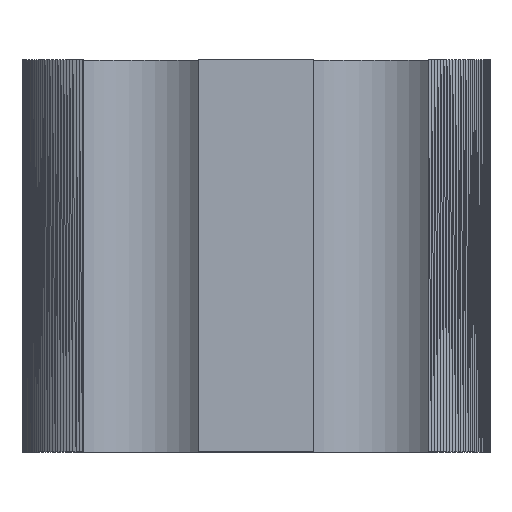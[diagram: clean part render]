
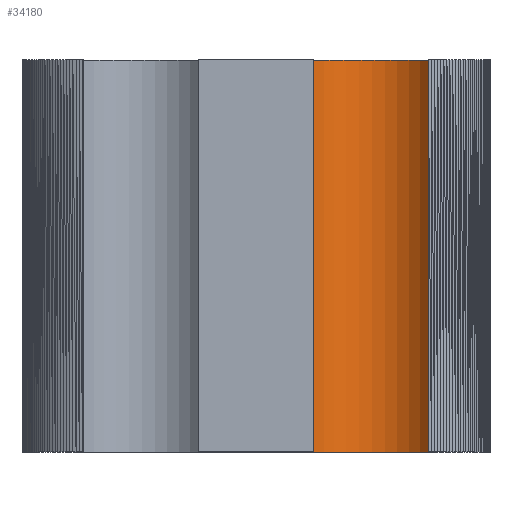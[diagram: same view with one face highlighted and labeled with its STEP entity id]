
A CAD part, top view. The second image highlights one B-rep face of the part: STEP entity #34180.
In plain terms, the highlighted cylindrical face has radius 2.85 mm (diameter 5.7 mm), a partial arc.
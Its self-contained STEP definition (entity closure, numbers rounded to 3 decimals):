
#18980 = PLANE('',#18981);
#18981 = AXIS2_PLACEMENT_3D('',#18982,#18983,#18984);
#18982 = CARTESIAN_POINT('',(-21.978,-15.,-32.23));
#18983 = DIRECTION('',(0.,1.,0.));
#18984 = DIRECTION('',(0.,0.,-1.));
#19073 = PLANE('',#19074);
#19074 = AXIS2_PLACEMENT_3D('',#19075,#19076,#19077);
#19075 = CARTESIAN_POINT('',(-21.978,0.,
    -32.23));
#19076 = DIRECTION('',(0.,-1.,0.));
#19077 = DIRECTION('',(-0.,0.,1.));
#28210 = VERTEX_POINT('',#28211);
#28211 = CARTESIAN_POINT('',(-19.749,0.,
    -29.007));
#28225 = PLANE('',#28226);
#28226 = AXIS2_PLACEMENT_3D('',#28227,#28228,#28229);
#28227 = CARTESIAN_POINT('',(-21.96,-7.5,-29.007));
#28228 = DIRECTION('',(0.,0.,1.));
#28229 = DIRECTION('',(0.,1.,0.));
#28237 = EDGE_CURVE('',#28210,#28238,#28240,.T.);
#28238 = VERTEX_POINT('',#28239);
#28239 = CARTESIAN_POINT('',(-15.372,0.,
    -29.007));
#28240 = SURFACE_CURVE('',#28241,(#28246,#28253),.PCURVE_S1.);
#28241 = ELLIPSE('',#28242,2.85,2.85);
#28242 = AXIS2_PLACEMENT_3D('',#28243,#28244,#28245);
#28243 = CARTESIAN_POINT('',(-17.56,0.,
    -30.833));
#28244 = DIRECTION('',(0.,-1.,0.));
#28245 = DIRECTION('',(-1.,0.,0.));
#28246 = PCURVE('',#19073,#28247);
#28247 = DEFINITIONAL_REPRESENTATION('',(#28248),#28252);
#28248 = ELLIPSE('',#28249,2.85,2.85);
#28249 = AXIS2_PLACEMENT_2D('',#28250,#28251);
#28250 = CARTESIAN_POINT('',(1.396,-4.418));
#28251 = DIRECTION('',(0.,1.));
#28252 = ( GEOMETRIC_REPRESENTATION_CONTEXT(2) 
PARAMETRIC_REPRESENTATION_CONTEXT() REPRESENTATION_CONTEXT('2D SPACE',''
  ) );
#28253 = PCURVE('',#28254,#28259);
#28254 = CYLINDRICAL_SURFACE('',#28255,2.85);
#28255 = AXIS2_PLACEMENT_3D('',#28256,#28257,#28258);
#28256 = CARTESIAN_POINT('',(-17.56,-7.5,-30.833));
#28257 = DIRECTION('',(0.,-1.,0.));
#28258 = DIRECTION('',(0.,0.,1.));
#28259 = DEFINITIONAL_REPRESENTATION('',(#28260),#28267);
#28260 = B_SPLINE_CURVE_WITH_KNOTS('',5,(#28261,#28262,#28263,#28264,
    #28265,#28266),.UNSPECIFIED.,.F.,.F.,(6,6),(5.588,
    10.12),.PIECEWISE_BEZIER_KNOTS.);
#28261 = CARTESIAN_POINT('',(0.875,-7.5));
#28262 = CARTESIAN_POINT('',(1.782,-7.5));
#28263 = CARTESIAN_POINT('',(2.688,-7.5));
#28264 = CARTESIAN_POINT('',(3.595,-7.5));
#28265 = CARTESIAN_POINT('',(4.501,-7.5));
#28266 = CARTESIAN_POINT('',(5.408,-7.5));
#28267 = ( GEOMETRIC_REPRESENTATION_CONTEXT(2) 
PARAMETRIC_REPRESENTATION_CONTEXT() REPRESENTATION_CONTEXT('2D SPACE',''
  ) );
#34047 = B_SPLINE_SURFACE_WITH_KNOTS('',3,3,(
    (#34048,#34049,#34050,#34051)
    ,(#34052,#34053,#34054,#34055)
    ,(#34056,#34057,#34058,#34059)
    ,(#34060,#34061,#34062,#34063
    )),.UNSPECIFIED.,.F.,.F.,.F.,(4,4),(4,4),(0.,1.),(0.,1.),
  .PIECEWISE_BEZIER_KNOTS.);
#34048 = CARTESIAN_POINT('',(-15.248,-15.,-29.037));
#34049 = CARTESIAN_POINT('',(-15.29,-15.,-29.027));
#34050 = CARTESIAN_POINT('',(-15.331,-15.,-29.017));
#34051 = CARTESIAN_POINT('',(-15.372,-15.,-29.007));
#34052 = CARTESIAN_POINT('',(-15.29,-10.,-29.027));
#34053 = CARTESIAN_POINT('',(-15.331,-10.,-29.017));
#34054 = CARTESIAN_POINT('',(-15.372,-10.,-29.007));
#34055 = CARTESIAN_POINT('',(-15.413,-10.,-28.998));
#34056 = CARTESIAN_POINT('',(-15.331,-5.,-29.017));
#34057 = CARTESIAN_POINT('',(-15.372,-5.,-29.007));
#34058 = CARTESIAN_POINT('',(-15.413,-5.,-28.998));
#34059 = CARTESIAN_POINT('',(-15.455,-5.,-28.988));
#34060 = CARTESIAN_POINT('',(-15.372,0.,
    -29.007));
#34061 = CARTESIAN_POINT('',(-15.413,0.,
    -28.998));
#34062 = CARTESIAN_POINT('',(-15.455,0.,
    -28.988));
#34063 = CARTESIAN_POINT('',(-15.496,0.,
    -28.978));
#34075 = EDGE_CURVE('',#34076,#28238,#34078,.T.);
#34076 = VERTEX_POINT('',#34077);
#34077 = CARTESIAN_POINT('',(-15.372,-15.,-29.007));
#34078 = SURFACE_CURVE('',#34079,(#34084,#34090),.PCURVE_S1.);
#34079 = B_SPLINE_CURVE_WITH_KNOTS('',3,(#34080,#34081,#34082,#34083),
  .UNSPECIFIED.,.F.,.F.,(4,4),(0.,1.),.PIECEWISE_BEZIER_KNOTS.);
#34080 = CARTESIAN_POINT('',(-15.372,-15.,-29.007));
#34081 = CARTESIAN_POINT('',(-15.372,-10.,-29.007));
#34082 = CARTESIAN_POINT('',(-15.372,-5.,-29.007));
#34083 = CARTESIAN_POINT('',(-15.372,0.,
    -29.007));
#34084 = PCURVE('',#34047,#34085);
#34085 = DEFINITIONAL_REPRESENTATION('',(#34086),#34089);
#34086 = B_SPLINE_CURVE_WITH_KNOTS('',1,(#34087,#34088),.UNSPECIFIED.,
  .F.,.F.,(2,2),(0.,1.),.PIECEWISE_BEZIER_KNOTS.);
#34087 = CARTESIAN_POINT('',(0.,1.));
#34088 = CARTESIAN_POINT('',(1.,0.));
#34089 = ( GEOMETRIC_REPRESENTATION_CONTEXT(2) 
PARAMETRIC_REPRESENTATION_CONTEXT() REPRESENTATION_CONTEXT('2D SPACE',''
  ) );
#34090 = PCURVE('',#28254,#34091);
#34091 = DEFINITIONAL_REPRESENTATION('',(#34092),#34099);
#34092 = B_SPLINE_CURVE_WITH_KNOTS('',5,(#34093,#34094,#34095,#34096,
    #34097,#34098),.UNSPECIFIED.,.F.,.F.,(6,6),(0.,1.),
  .PIECEWISE_BEZIER_KNOTS.);
#34093 = CARTESIAN_POINT('',(5.408,7.5));
#34094 = CARTESIAN_POINT('',(5.408,4.5));
#34095 = CARTESIAN_POINT('',(5.408,1.5));
#34096 = CARTESIAN_POINT('',(5.408,-1.5));
#34097 = CARTESIAN_POINT('',(5.408,-4.5));
#34098 = CARTESIAN_POINT('',(5.408,-7.5));
#34099 = ( GEOMETRIC_REPRESENTATION_CONTEXT(2) 
PARAMETRIC_REPRESENTATION_CONTEXT() REPRESENTATION_CONTEXT('2D SPACE',''
  ) );
#34180 = ADVANCED_FACE('',(#34181),#28254,.F.);
#34181 = FACE_BOUND('',#34182,.T.);
#34182 = EDGE_LOOP('',(#34183,#34184,#34185,#34208));
#34183 = ORIENTED_EDGE('',*,*,#34075,.T.);
#34184 = ORIENTED_EDGE('',*,*,#28237,.F.);
#34185 = ORIENTED_EDGE('',*,*,#34186,.T.);
#34186 = EDGE_CURVE('',#28210,#34187,#34189,.T.);
#34187 = VERTEX_POINT('',#34188);
#34188 = CARTESIAN_POINT('',(-19.749,-15.,-29.007));
#34189 = SURFACE_CURVE('',#34190,(#34194,#34201),.PCURVE_S1.);
#34190 = LINE('',#34191,#34192);
#34191 = CARTESIAN_POINT('',(-19.749,-7.5,-29.007));
#34192 = VECTOR('',#34193,1.);
#34193 = DIRECTION('',(0.,-1.,0.));
#34194 = PCURVE('',#28254,#34195);
#34195 = DEFINITIONAL_REPRESENTATION('',(#34196),#34200);
#34196 = LINE('',#34197,#34198);
#34197 = CARTESIAN_POINT('',(0.875,0.));
#34198 = VECTOR('',#34199,1.);
#34199 = DIRECTION('',(0.,1.));
#34200 = ( GEOMETRIC_REPRESENTATION_CONTEXT(2) 
PARAMETRIC_REPRESENTATION_CONTEXT() REPRESENTATION_CONTEXT('2D SPACE',''
  ) );
#34201 = PCURVE('',#28225,#34202);
#34202 = DEFINITIONAL_REPRESENTATION('',(#34203),#34207);
#34203 = LINE('',#34204,#34205);
#34204 = CARTESIAN_POINT('',(0.,-2.212));
#34205 = VECTOR('',#34206,1.);
#34206 = DIRECTION('',(-1.,0.));
#34207 = ( GEOMETRIC_REPRESENTATION_CONTEXT(2) 
PARAMETRIC_REPRESENTATION_CONTEXT() REPRESENTATION_CONTEXT('2D SPACE',''
  ) );
#34208 = ORIENTED_EDGE('',*,*,#34209,.T.);
#34209 = EDGE_CURVE('',#34187,#34076,#34210,.T.);
#34210 = SURFACE_CURVE('',#34211,(#34216,#34226),.PCURVE_S1.);
#34211 = ELLIPSE('',#34212,2.85,2.85);
#34212 = AXIS2_PLACEMENT_3D('',#34213,#34214,#34215);
#34213 = CARTESIAN_POINT('',(-17.56,-15.,-30.833));
#34214 = DIRECTION('',(0.,-1.,-0.));
#34215 = DIRECTION('',(-1.,0.,0.));
#34216 = PCURVE('',#28254,#34217);
#34217 = DEFINITIONAL_REPRESENTATION('',(#34218),#34225);
#34218 = B_SPLINE_CURVE_WITH_KNOTS('',5,(#34219,#34220,#34221,#34222,
    #34223,#34224),.UNSPECIFIED.,.F.,.F.,(6,6),(5.588,
    10.12),.PIECEWISE_BEZIER_KNOTS.);
#34219 = CARTESIAN_POINT('',(0.875,7.5));
#34220 = CARTESIAN_POINT('',(1.782,7.5));
#34221 = CARTESIAN_POINT('',(2.688,7.5));
#34222 = CARTESIAN_POINT('',(3.595,7.5));
#34223 = CARTESIAN_POINT('',(4.501,7.5));
#34224 = CARTESIAN_POINT('',(5.408,7.5));
#34225 = ( GEOMETRIC_REPRESENTATION_CONTEXT(2) 
PARAMETRIC_REPRESENTATION_CONTEXT() REPRESENTATION_CONTEXT('2D SPACE',''
  ) );
#34226 = PCURVE('',#18980,#34227);
#34227 = DEFINITIONAL_REPRESENTATION('',(#34228),#34236);
#34228 = ( BOUNDED_CURVE() B_SPLINE_CURVE(2,(#34229,#34230,#34231,#34232
    ,#34233,#34234,#34235),.UNSPECIFIED.,.T.,.F.) 
B_SPLINE_CURVE_WITH_KNOTS((1,2,2,2,2,1),(-2.094,0.,
    2.094,4.189,6.283,8.378),
.UNSPECIFIED.) CURVE() GEOMETRIC_REPRESENTATION_ITEM() 
RATIONAL_B_SPLINE_CURVE((1.,0.5,1.,0.5,1.,0.5,1.)) REPRESENTATION_ITEM(
  '') );
#34229 = CARTESIAN_POINT('',(-1.396,-1.568));
#34230 = CARTESIAN_POINT('',(3.54,-1.568));
#34231 = CARTESIAN_POINT('',(1.072,-5.843));
#34232 = CARTESIAN_POINT('',(-1.396,-10.118));
#34233 = CARTESIAN_POINT('',(-3.864,-5.843));
#34234 = CARTESIAN_POINT('',(-6.333,-1.568));
#34235 = CARTESIAN_POINT('',(-1.396,-1.568));
#34236 = ( GEOMETRIC_REPRESENTATION_CONTEXT(2) 
PARAMETRIC_REPRESENTATION_CONTEXT() REPRESENTATION_CONTEXT('2D SPACE',''
  ) );
